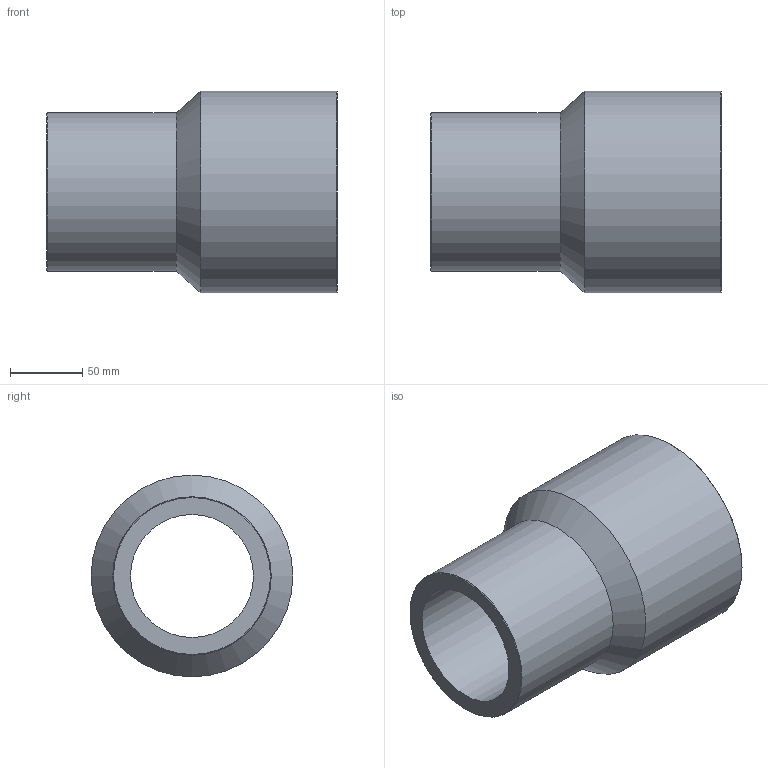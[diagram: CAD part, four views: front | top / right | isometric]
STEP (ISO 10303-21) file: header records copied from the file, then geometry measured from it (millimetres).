
FILE_DESCRIPTION(/* description */ ('Unknown'),/* implementation_level */ '2;1');
FILE_NAME(/* name */ 'RP140110G',/* time_stamp */ '2021-09-16T16:56:27+02:00',/* author */ ('Unknown'),/* organization */ ('Unknown'),/* preprocessor_version */ 'ST-DEVELOPER v16.7',/* originating_system */ 'Solid Edge',/* authorisation */ 'Unknown');
FILE_SCHEMA (('AUTOMOTIVE_DESIGN {1 0 10303 214 3 1 1}'));
Length unit declared in the file: millimetre
Products named in the file (1): RP140110G
Bounding box: 202 x 140 x 140 mm (x, y, z)
Volume: 1030249.8 mm3; surface area: 153783 mm2
Topology: 1 solids, 1 shells, 10 faces, 19 edges, 11 vertices
Faces by surface type: cylinder 4, cone 4, plane 2
Full cylindrical faces by diameter (mm): 85.4 x1, 108.6 x1, 110 x1, 140 x1
Entity records: 238 total; most frequent: DIRECTION 42, CARTESIAN_POINT 31, AXIS2_PLACEMENT_3D 21, ORIENTED_EDGE 20, EDGE_LOOP 20, FACE_BOUND 20, EDGE_CURVE 10, VERTEX_POINT 10
